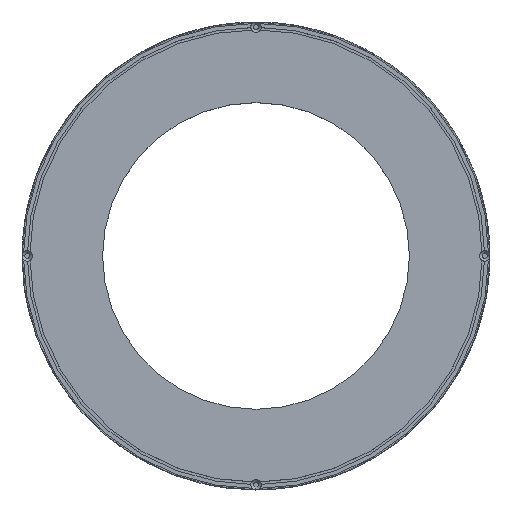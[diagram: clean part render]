
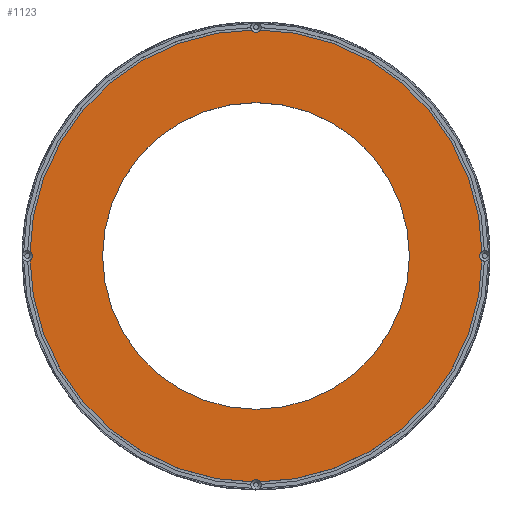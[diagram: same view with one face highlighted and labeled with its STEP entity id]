
A CAD part, top view. The second image highlights one B-rep face of the part: STEP entity #1123.
In plain terms, the highlighted planar face has unit normal (0, 0, -1).
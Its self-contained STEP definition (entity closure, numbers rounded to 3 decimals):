
#107=CARTESIAN_POINT('',(0.,0.,22.));
#108=DIRECTION('',(0.,0.,1.));
#109=DIRECTION('',(1.,0.,0.));
#110=AXIS2_PLACEMENT_3D('',#107,#108,#109);
#126=CARTESIAN_POINT('',(0.,0.,22.));
#127=DIRECTION('',(0.,0.,-1.));
#128=DIRECTION('',(1.,0.,0.));
#129=AXIS2_PLACEMENT_3D('',#126,#127,#128);
#131=CARTESIAN_POINT('',(0.,0.,22.));
#132=DIRECTION('',(0.,0.,-1.));
#133=DIRECTION('',(-1.,0.,0.));
#134=AXIS2_PLACEMENT_3D('',#131,#132,#133);
#713=CARTESIAN_POINT('',(0.,0.,22.));
#714=DIRECTION('',(0.,0.,1.));
#715=DIRECTION('',(-1.,0.,0.));
#716=AXIS2_PLACEMENT_3D('',#713,#714,#715);
#798=CARTESIAN_POINT('',(59.,0.,22.));
#799=CARTESIAN_POINT('',(-59.,0.,22.));
#800=VERTEX_POINT('',#798);
#801=VERTEX_POINT('',#799);
#956=CARTESIAN_POINT('',(87.,0.,22.));
#957=CARTESIAN_POINT('',(-87.,0.,22.));
#958=VERTEX_POINT('',#956);
#959=VERTEX_POINT('',#957);
#1107=CARTESIAN_POINT('',(0.,0.,22.));
#1108=DIRECTION('',(0.,0.,1.));
#1109=DIRECTION('',(1.,0.,0.));
#1110=AXIS2_PLACEMENT_3D('',#1107,#1108,#1109);
#1111=PLANE('',#1110);
#1112=ORIENTED_EDGE('',*,*,#1079,.T.);
#1114=ORIENTED_EDGE('',*,*,#1113,.T.);
#1115=EDGE_LOOP('',(#1112,#1114));
#1116=FACE_OUTER_BOUND('',#1115,.F.);
#1118=ORIENTED_EDGE('',*,*,#1117,.T.);
#1120=ORIENTED_EDGE('',*,*,#1119,.T.);
#1121=EDGE_LOOP('',(#1118,#1120));
#1122=FACE_BOUND('',#1121,.F.);
#111=CIRCLE('',#110,87.);
#130=CIRCLE('',#129,59.);
#135=CIRCLE('',#134,59.);
#717=CIRCLE('',#716,87.);
#1079=EDGE_CURVE('',#958,#959,#111,.T.);
#1113=EDGE_CURVE('',#959,#958,#717,.T.);
#1117=EDGE_CURVE('',#800,#801,#130,.T.);
#1119=EDGE_CURVE('',#801,#800,#135,.T.);
#1123=ADVANCED_FACE('',(#1116,#1122),#1111,.F.);
